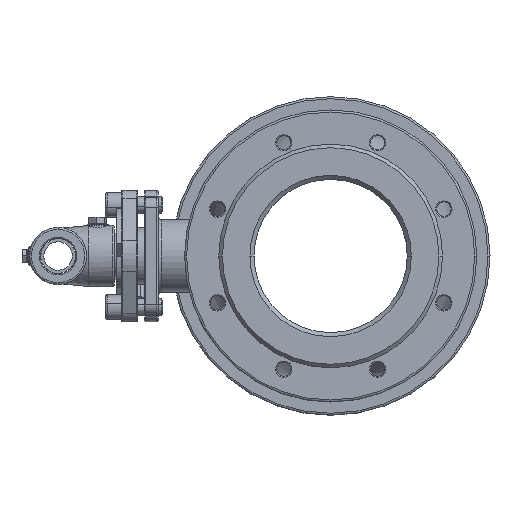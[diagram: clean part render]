
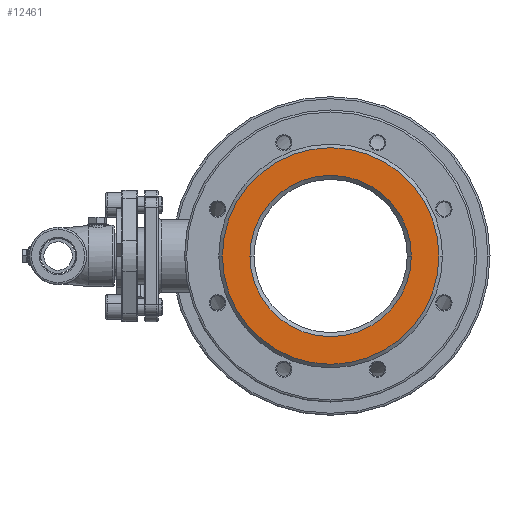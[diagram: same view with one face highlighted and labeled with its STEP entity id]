
A CAD part, left-side view. The second image highlights one B-rep face of the part: STEP entity #12461.
In plain terms, the highlighted planar face has unit normal (-1, 0, 0).
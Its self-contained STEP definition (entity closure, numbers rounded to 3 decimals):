
#4 = CIRCLE ( 'NONE', #5, 106. ) ;
#5 = AXIS2_PLACEMENT_3D ( 'NONE', #18424, #18425, #18426 ) ;
#7 = AXIS2_PLACEMENT_3D ( 'NONE', #18432, #18433, #18434 ) ;
#8 = CIRCLE ( 'NONE', #7, 79. ) ;
#411 = AXIS2_PLACEMENT_3D ( 'NONE', #1762, #1761, #1769 ) ;
#666 = CIRCLE ( 'NONE', #671, 79. ) ;
#671 = AXIS2_PLACEMENT_3D ( 'NONE', #19403, #19404, #19405 ) ;
#684 = CIRCLE ( 'NONE', #686, 106. ) ;
#686 = AXIS2_PLACEMENT_3D ( 'NONE', #19499, #19500, #19501 ) ;
#1761 = DIRECTION ( 'NONE',  ( -1., 0., 0. ) ) ;
#1762 = CARTESIAN_POINT ( 'NONE',  ( -117., 0., 0. ) ) ;
#1763 = FACE_BOUND ( 'NONE', #13496, .T. ) ;
#1766 = FACE_OUTER_BOUND ( 'NONE', #13495, .T. ) ;
#1767 = PLANE ( 'NONE',  #411 ) ;
#1769 = DIRECTION ( 'NONE',  ( 0., -1., 0. ) ) ;
#7120 = CARTESIAN_POINT ( 'NONE',  ( -117., 106., 0. ) ) ;
#7126 = CARTESIAN_POINT ( 'NONE',  ( -117., -79., 0. ) ) ;
#7127 = CARTESIAN_POINT ( 'NONE',  ( -117., 79., 0. ) ) ;
#7132 = CARTESIAN_POINT ( 'NONE',  ( -117., -106., 0. ) ) ;
#11278 = EDGE_CURVE ( 'NONE', #15624, #15625, #666, .T. ) ;
#11290 = EDGE_CURVE ( 'NONE', #15618, #15630, #684, .T. ) ;
#11552 = EDGE_CURVE ( 'NONE', #15630, #15618, #4, .T. ) ;
#11554 = EDGE_CURVE ( 'NONE', #15625, #15624, #8, .T. ) ;
#12461 = ADVANCED_FACE ( 'NONE', ( #1763, #1766 ), #1767, .T. ) ;
#13495 = EDGE_LOOP ( 'NONE', ( #16639, #16640 ) ) ;
#13496 = EDGE_LOOP ( 'NONE', ( #16637, #16638 ) ) ;
#15618 = VERTEX_POINT ( 'NONE', #7120 ) ;
#15624 = VERTEX_POINT ( 'NONE', #7126 ) ;
#15625 = VERTEX_POINT ( 'NONE', #7127 ) ;
#15630 = VERTEX_POINT ( 'NONE', #7132 ) ;
#16637 = ORIENTED_EDGE ( 'NONE', *, *, #11278, .T. ) ;
#16638 = ORIENTED_EDGE ( 'NONE', *, *, #11554, .T. ) ;
#16639 = ORIENTED_EDGE ( 'NONE', *, *, #11290, .F. ) ;
#16640 = ORIENTED_EDGE ( 'NONE', *, *, #11552, .F. ) ;
#18424 = CARTESIAN_POINT ( 'NONE',  ( -117., 0., 0. ) ) ;
#18425 = DIRECTION ( 'NONE',  ( 1., 0., 0. ) ) ;
#18426 = DIRECTION ( 'NONE',  ( 0., 1., 0. ) ) ;
#18432 = CARTESIAN_POINT ( 'NONE',  ( -117., 0., 0. ) ) ;
#18433 = DIRECTION ( 'NONE',  ( 1., 0., 0. ) ) ;
#18434 = DIRECTION ( 'NONE',  ( 0., -1., 0. ) ) ;
#19403 = CARTESIAN_POINT ( 'NONE',  ( -117., 0., 0. ) ) ;
#19404 = DIRECTION ( 'NONE',  ( 1., 0., 0. ) ) ;
#19405 = DIRECTION ( 'NONE',  ( 0., -1., 0. ) ) ;
#19499 = CARTESIAN_POINT ( 'NONE',  ( -117., 0., 0. ) ) ;
#19500 = DIRECTION ( 'NONE',  ( 1., 0., 0. ) ) ;
#19501 = DIRECTION ( 'NONE',  ( 0., 1., 0. ) ) ;
